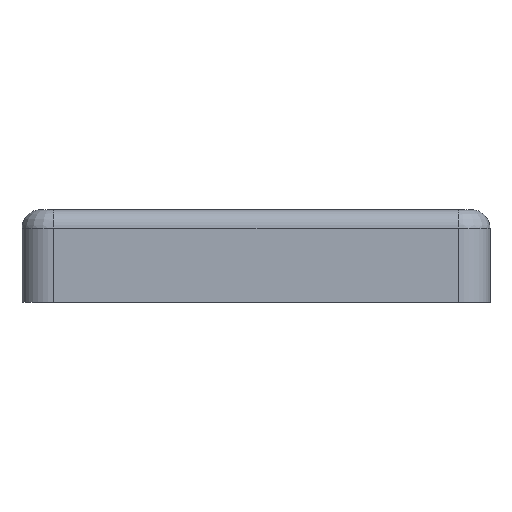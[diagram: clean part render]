
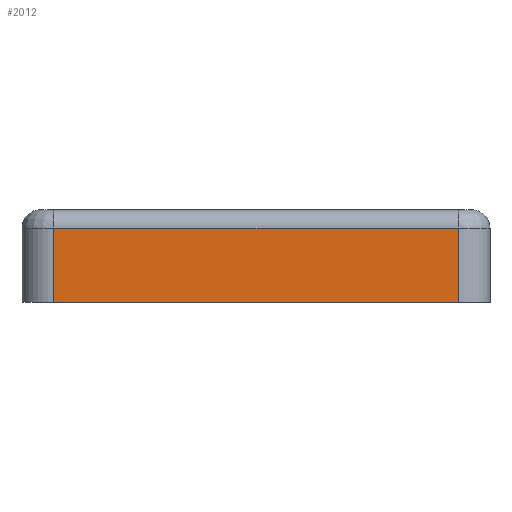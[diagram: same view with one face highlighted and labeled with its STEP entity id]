
A CAD part, left-side view. The second image highlights one B-rep face of the part: STEP entity #2012.
In plain terms, the highlighted planar face has unit normal (-1, 0, 0).
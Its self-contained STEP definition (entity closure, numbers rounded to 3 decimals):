
#44 = PLANE('',#45);
#45 = AXIS2_PLACEMENT_3D('',#46,#47,#48);
#46 = CARTESIAN_POINT('',(-6.25,-33.35,0.1));
#47 = DIRECTION('',(0.,0.,1.));
#48 = DIRECTION('',(1.,0.,-0.));
#72 = CYLINDRICAL_SURFACE('',#73,2.1);
#73 = AXIS2_PLACEMENT_3D('',#74,#75,#76);
#74 = CARTESIAN_POINT('',(0.45,-26.65,-8.02));
#75 = DIRECTION('',(0.,0.,1.));
#76 = DIRECTION('',(0.,-1.,0.));
#1445 = CYLINDRICAL_SURFACE('',#1446,1.2);
#1446 = AXIS2_PLACEMENT_3D('',#1447,#1448,#1449);
#1447 = CARTESIAN_POINT('',(-0.45,-0.05,4.98));
#1448 = DIRECTION('',(0.,-1.,0.));
#1449 = DIRECTION('',(0.,0.,1.));
#1923 = CYLINDRICAL_SURFACE('',#1924,2.1);
#1924 = AXIS2_PLACEMENT_3D('',#1925,#1926,#1927);
#1925 = CARTESIAN_POINT('',(0.45,-0.05,-8.02));
#1926 = DIRECTION('',(0.,0.,1.));
#1927 = DIRECTION('',(-0.,1.,0.));
#1940 = VERTEX_POINT('',#1941);
#1941 = CARTESIAN_POINT('',(-1.65,-0.05,0.1));
#1963 = EDGE_CURVE('',#1940,#1964,#1966,.T.);
#1964 = VERTEX_POINT('',#1965);
#1965 = CARTESIAN_POINT('',(-1.65,-0.05,4.98));
#1966 = SURFACE_CURVE('',#1967,(#1971,#1978),.PCURVE_S1.);
#1967 = LINE('',#1968,#1969);
#1968 = CARTESIAN_POINT('',(-1.65,-0.05,-8.02));
#1969 = VECTOR('',#1970,1.);
#1970 = DIRECTION('',(0.,0.,1.));
#1971 = PCURVE('',#1923,#1972);
#1972 = DEFINITIONAL_REPRESENTATION('',(#1973),#1977);
#1973 = LINE('',#1974,#1975);
#1974 = CARTESIAN_POINT('',(1.571,0.));
#1975 = VECTOR('',#1976,1.);
#1976 = DIRECTION('',(0.,1.));
#1977 = ( GEOMETRIC_REPRESENTATION_CONTEXT(2) 
PARAMETRIC_REPRESENTATION_CONTEXT() REPRESENTATION_CONTEXT('2D SPACE',''
  ) );
#1978 = PCURVE('',#1979,#1984);
#1979 = PLANE('',#1980);
#1980 = AXIS2_PLACEMENT_3D('',#1981,#1982,#1983);
#1981 = CARTESIAN_POINT('',(-1.65,2.05,-8.02));
#1982 = DIRECTION('',(1.,0.,-0.));
#1983 = DIRECTION('',(0.,-1.,0.));
#1984 = DEFINITIONAL_REPRESENTATION('',(#1985),#1989);
#1985 = LINE('',#1986,#1987);
#1986 = CARTESIAN_POINT('',(2.1,0.));
#1987 = VECTOR('',#1988,1.);
#1988 = DIRECTION('',(0.,-1.));
#1989 = ( GEOMETRIC_REPRESENTATION_CONTEXT(2) 
PARAMETRIC_REPRESENTATION_CONTEXT() REPRESENTATION_CONTEXT('2D SPACE',''
  ) );
#2012 = ADVANCED_FACE('',(#2013),#1979,.F.);
#2013 = FACE_BOUND('',#2014,.F.);
#2014 = EDGE_LOOP('',(#2015,#2038,#2039,#2062));
#2015 = ORIENTED_EDGE('',*,*,#2016,.F.);
#2016 = EDGE_CURVE('',#1940,#2017,#2019,.T.);
#2017 = VERTEX_POINT('',#2018);
#2018 = CARTESIAN_POINT('',(-1.65,-26.65,0.1));
#2019 = SURFACE_CURVE('',#2020,(#2024,#2031),.PCURVE_S1.);
#2020 = LINE('',#2021,#2022);
#2021 = CARTESIAN_POINT('',(-1.65,-15.65,0.1));
#2022 = VECTOR('',#2023,1.);
#2023 = DIRECTION('',(0.,-1.,0.));
#2024 = PCURVE('',#1979,#2025);
#2025 = DEFINITIONAL_REPRESENTATION('',(#2026),#2030);
#2026 = LINE('',#2027,#2028);
#2027 = CARTESIAN_POINT('',(17.7,-8.12));
#2028 = VECTOR('',#2029,1.);
#2029 = DIRECTION('',(1.,0.));
#2030 = ( GEOMETRIC_REPRESENTATION_CONTEXT(2) 
PARAMETRIC_REPRESENTATION_CONTEXT() REPRESENTATION_CONTEXT('2D SPACE',''
  ) );
#2031 = PCURVE('',#44,#2032);
#2032 = DEFINITIONAL_REPRESENTATION('',(#2033),#2037);
#2033 = LINE('',#2034,#2035);
#2034 = CARTESIAN_POINT('',(4.6,17.7));
#2035 = VECTOR('',#2036,1.);
#2036 = DIRECTION('',(0.,-1.));
#2037 = ( GEOMETRIC_REPRESENTATION_CONTEXT(2) 
PARAMETRIC_REPRESENTATION_CONTEXT() REPRESENTATION_CONTEXT('2D SPACE',''
  ) );
#2038 = ORIENTED_EDGE('',*,*,#1963,.T.);
#2039 = ORIENTED_EDGE('',*,*,#2040,.T.);
#2040 = EDGE_CURVE('',#1964,#2041,#2043,.T.);
#2041 = VERTEX_POINT('',#2042);
#2042 = CARTESIAN_POINT('',(-1.65,-26.65,4.98));
#2043 = SURFACE_CURVE('',#2044,(#2048,#2055),.PCURVE_S1.);
#2044 = LINE('',#2045,#2046);
#2045 = CARTESIAN_POINT('',(-1.65,-0.05,4.98));
#2046 = VECTOR('',#2047,1.);
#2047 = DIRECTION('',(0.,-1.,0.));
#2048 = PCURVE('',#1979,#2049);
#2049 = DEFINITIONAL_REPRESENTATION('',(#2050),#2054);
#2050 = LINE('',#2051,#2052);
#2051 = CARTESIAN_POINT('',(2.1,-13.));
#2052 = VECTOR('',#2053,1.);
#2053 = DIRECTION('',(1.,0.));
#2054 = ( GEOMETRIC_REPRESENTATION_CONTEXT(2) 
PARAMETRIC_REPRESENTATION_CONTEXT() REPRESENTATION_CONTEXT('2D SPACE',''
  ) );
#2055 = PCURVE('',#1445,#2056);
#2056 = DEFINITIONAL_REPRESENTATION('',(#2057),#2061);
#2057 = LINE('',#2058,#2059);
#2058 = CARTESIAN_POINT('',(1.571,0.));
#2059 = VECTOR('',#2060,1.);
#2060 = DIRECTION('',(0.,1.));
#2061 = ( GEOMETRIC_REPRESENTATION_CONTEXT(2) 
PARAMETRIC_REPRESENTATION_CONTEXT() REPRESENTATION_CONTEXT('2D SPACE',''
  ) );
#2062 = ORIENTED_EDGE('',*,*,#2063,.F.);
#2063 = EDGE_CURVE('',#2017,#2041,#2064,.T.);
#2064 = SURFACE_CURVE('',#2065,(#2069,#2076),.PCURVE_S1.);
#2065 = LINE('',#2066,#2067);
#2066 = CARTESIAN_POINT('',(-1.65,-26.65,-8.02));
#2067 = VECTOR('',#2068,1.);
#2068 = DIRECTION('',(0.,0.,1.));
#2069 = PCURVE('',#1979,#2070);
#2070 = DEFINITIONAL_REPRESENTATION('',(#2071),#2075);
#2071 = LINE('',#2072,#2073);
#2072 = CARTESIAN_POINT('',(28.7,0.));
#2073 = VECTOR('',#2074,1.);
#2074 = DIRECTION('',(0.,-1.));
#2075 = ( GEOMETRIC_REPRESENTATION_CONTEXT(2) 
PARAMETRIC_REPRESENTATION_CONTEXT() REPRESENTATION_CONTEXT('2D SPACE',''
  ) );
#2076 = PCURVE('',#72,#2077);
#2077 = DEFINITIONAL_REPRESENTATION('',(#2078),#2082);
#2078 = LINE('',#2079,#2080);
#2079 = CARTESIAN_POINT('',(4.712,0.));
#2080 = VECTOR('',#2081,1.);
#2081 = DIRECTION('',(-0.,1.));
#2082 = ( GEOMETRIC_REPRESENTATION_CONTEXT(2) 
PARAMETRIC_REPRESENTATION_CONTEXT() REPRESENTATION_CONTEXT('2D SPACE',''
  ) );
